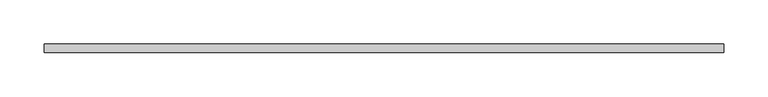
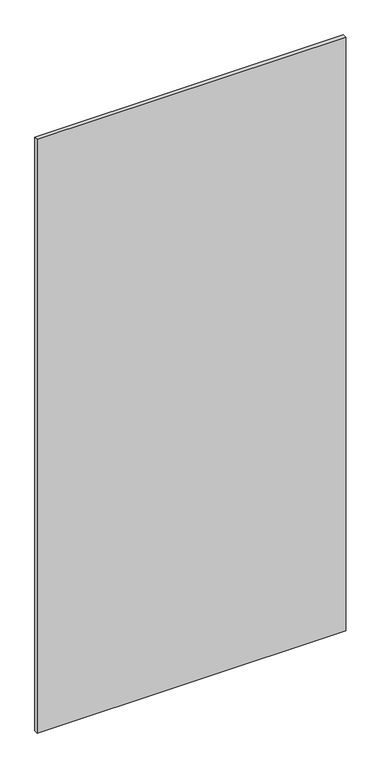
"""IFC4 building model written with IfcOpenShell, lengths in millimetres: plate geometry, Panel Flex Glassline_10mm : Panel Flex Glassline_10mm."""

from ifc_helpers import new_model, si_unit, origin, origin_with_axes, place, context, project, spatial, polyline, outline, extrude, source, transform, mapped, element, save


def plate_e5ab7671(model_context):
    return source(origin(), model_context, "Body", "SweptSolid", [
        extrude(outline(polyline([(385.9729837, 12.4), (385.9729837, 2.4), (-385.9729837, 2.4), (-385.9729837, 12.4), (385.9729837, 12.4)])), origin_with_axes(), (0.0, 0.0, 1.0), 1571.3454707),
    ])


if __name__ == "__main__":
    model = new_model("IFC4")
    model_context = context("Model", 3, world=origin())
    ifc_project = project(units=[si_unit("LENGTHUNIT", "METRE", prefix="MILLI")], contexts=[model_context])
    site = spatial("IfcSite", under=ifc_project)
    building = spatial("IfcBuilding", under=site)
    placement = place(None, origin())
    plate_shape = plate_e5ab7671(model_context)
    element("IfcPlate", 1, ObjectType="Panel Flex Glassline_10mm : Panel Flex Glassline_10mm", at=placement, inside=building, context=model_context, shape_type="MappedRepresentation", body=[
        mapped(plate_shape, transform((0.0, 0.0, 0.0), x_axis=(1.0, 0.0, 0.0), y_axis=(0.0, 1.0, 0.0), z_axis=(0.0, 0.0, 1.0))),
    ])
    save(model, "model.ifc")
